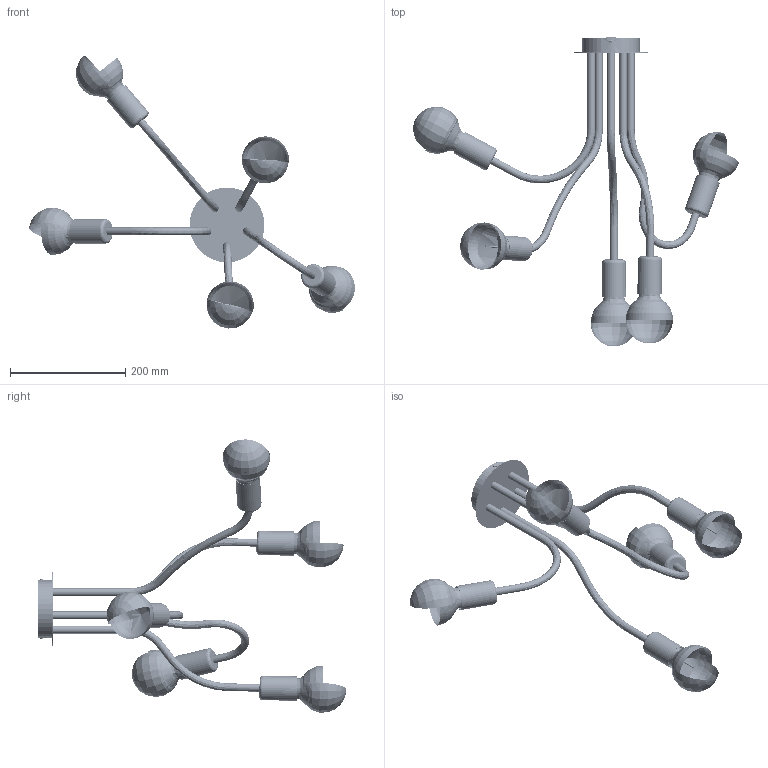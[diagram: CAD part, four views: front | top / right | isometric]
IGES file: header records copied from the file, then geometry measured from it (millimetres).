
Start section: SolidWorks IGES file using analytic representation for surfaces
Global section: file name: E:\3D lampy\Flex\Flex_9766,9772.IGS; native system: SolidWorks 2016; preprocessor: SolidWorks 2016; author: Asia; date: 170623.085859; units: millimetre
Bounding box: 566.27 x 536.96 x 474.95 mm (x, y, z)
Surface area: 491497.9 mm2 (no closed solid volume)
Topology: 0 solids, 0 shells, 1213 faces, 14897 edges, 14892 vertices
Faces by surface type: revolution 895, bspline 318
